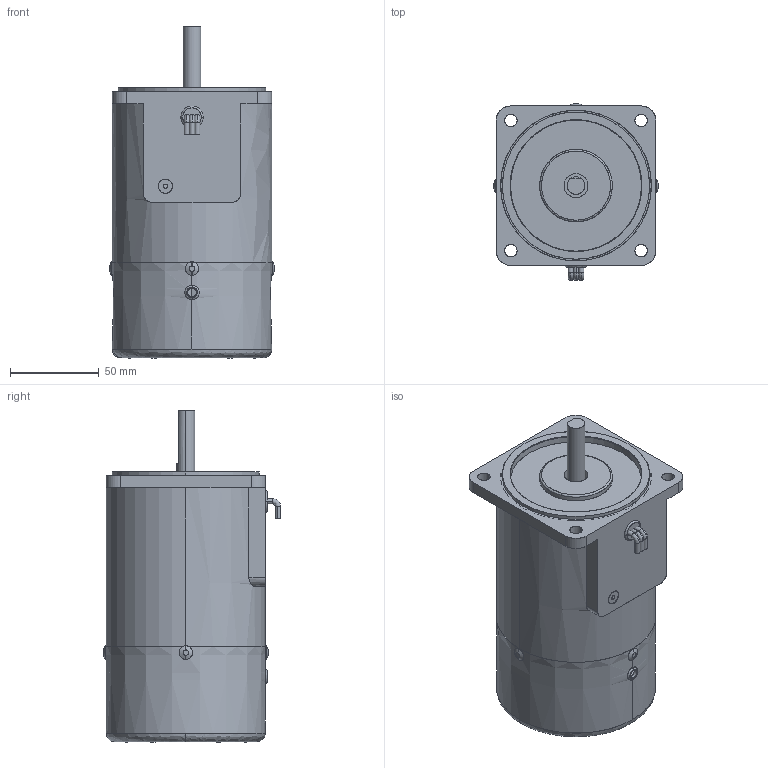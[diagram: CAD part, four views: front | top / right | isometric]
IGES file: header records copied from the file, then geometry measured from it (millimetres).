
Start section: SolidWorks IGES file using analytic representation for surfaces
Bounding box: 93 x 100 x 187.5 mm (x, y, z)
Surface area: 133311.7 mm2 (no closed solid volume)
Topology: 0 solids, 0 shells, 161 faces, 3958 edges, 3958 vertices
Faces by surface type: revolution 90, bspline 71
